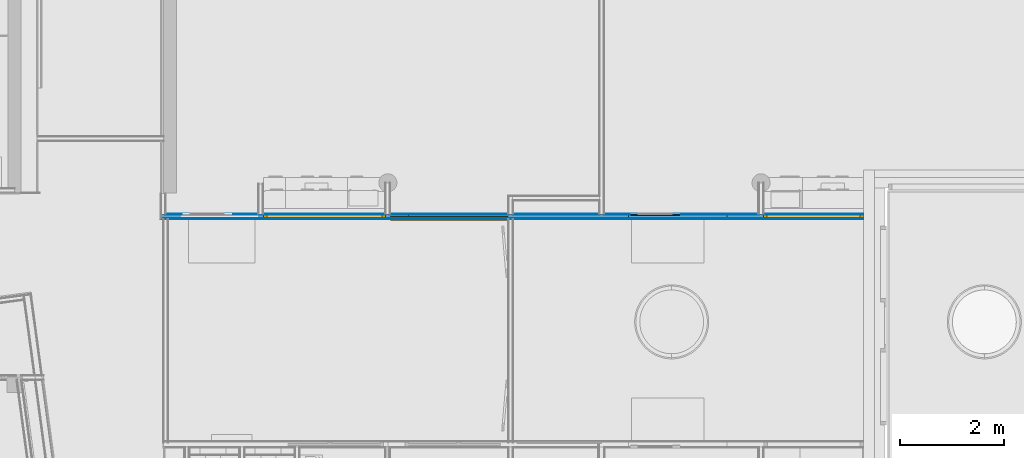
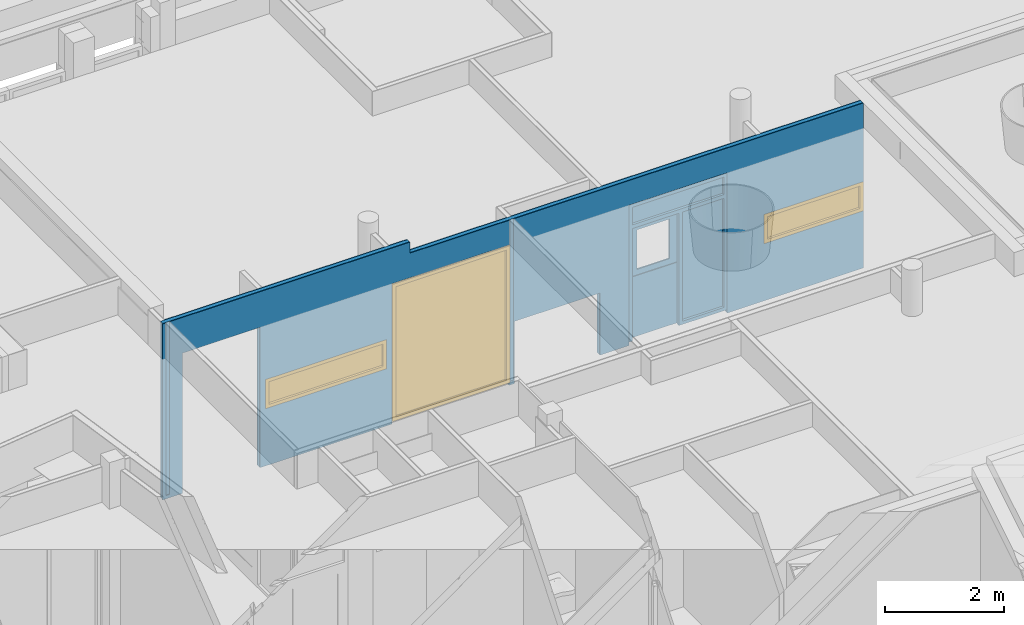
# One storey, part 75 of 167: 5 building element parts, 3 windows, 6 openings, 2 elements without a shape of their own.
"""IFC2X3 building model written with IfcOpenShell, lengths in millimetres."""

from ifc_helpers import new_model, entity, si_unit, converted_unit, derived_unit, money_unit, direction, frame, origin_with_axes, place, context, subcontext, project, spatial, open_shell, faceted_brep, surface_model, material, type_object, element, fill, aggregate, save


model = new_model("IFC2X3")

# Units and contexts
model_context = context("Model", 3, precision=0.01, world=origin_with_axes(), true_north=direction((0.0, 1.0)))
plan_context = context("Plan", 3, precision=0.01, world=origin_with_axes(), true_north=direction((0.0, 1.0)))
body_context = subcontext(model_context, "Body", "Model", "MODEL_VIEW")
ifc_project = project(units=[si_unit("LENGTHUNIT", "METRE", prefix="MILLI"), si_unit("AREAUNIT", "SQUARE_METRE"), si_unit("VOLUMEUNIT", "CUBIC_METRE"), converted_unit("PLANEANGLEUNIT", "DEGREE", entity("IfcPlaneAngleMeasure", 0.0174532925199), si_unit("PLANEANGLEUNIT", "RADIAN"), dimensions=[0, 0, 0, 0, 0, 0, 0]), si_unit("SOLIDANGLEUNIT", "STERADIAN"), money_unit("EUR"), converted_unit("TIMEUNIT", "Year", entity("IfcTimeMeasure", 31556926.0), si_unit("TIMEUNIT", "SECOND"), dimensions=[0, 0, 1, 0, 0, 0, 0]), si_unit("MASSUNIT", "GRAM", prefix="KILO"), si_unit("THERMODYNAMICTEMPERATUREUNIT", "DEGREE_CELSIUS"), si_unit("LUMINOUSINTENSITYUNIT", "LUMEN"), si_unit("ENERGYUNIT", "JOULE", prefix="MEGA"), derived_unit("THERMALCONDUCTANCEUNIT", [(si_unit("POWERUNIT", "WATT"), 1), (si_unit("LENGTHUNIT", "METRE"), -1), (si_unit("THERMODYNAMICTEMPERATUREUNIT", "KELVIN"), -1)]), derived_unit("SPECIFICHEATCAPACITYUNIT", [(si_unit("ENERGYUNIT", "JOULE"), 1), (si_unit("MASSUNIT", "GRAM", prefix="KILO"), -1), (si_unit("THERMODYNAMICTEMPERATUREUNIT", "KELVIN"), -1)]), derived_unit("MASSDENSITYUNIT", [(si_unit("MASSUNIT", "GRAM", prefix="KILO"), 1), (si_unit("VOLUMEUNIT", "CUBIC_METRE"), -1)])], contexts=[model_context, plan_context])

# Site, building, storey
site_placement = place(None, origin_with_axes())
site = spatial("IfcSite", under=ifc_project, at=site_placement, Name="Site", CompositionType="ELEMENT")
building_placement = place(site_placement, origin_with_axes())
building = spatial("IfcBuilding", under=site, at=building_placement, Name="Naam gebouw", CompositionType="ELEMENT")
storey_placement = place(building_placement, origin_with_axes())
storey = spatial("IfcBuildingStorey", under=building, at=storey_placement, Name="Begane grond", CompositionType="ELEMENT", Elevation=0.0)

# Window
window_style_1 = type_object("IfcWindowStyle", Name="R1 24", ConstructionType="NOTDEFINED", OperationType="SINGLE_PANEL", ParameterTakesPrecedence=False, Sizeable=False)
wall_placement = place(storey_placement, frame((38189.0, 41700.0, -100.0), z_axis=(0.0, 0.0, 1.0), x_axis=(-1.0, 0.0, 0.0)))
opening_1_placement = place(wall_placement, frame((1176.5, 0.0, 1200.0), z_axis=(0.0, 0.0, 1.0), x_axis=(1.0, 0.0, 0.0)))
window_1_placement = place(opening_1_placement, frame((-962.5, 0.0, 0.0), z_axis=(0.0, 0.0, 1.0), x_axis=(1.0, 0.0, 0.0)))
window_1 = element("IfcWindow", 1, at=window_1_placement, inside=storey, type_object=window_style_1, Name="31_Raam_Hi-49", ObjectType="WINDOW", OverallHeight=595.0, OverallWidth=1925.0, context=body_context, shape_type="SurfaceModel", body=[
    faceted_brep([(67.0, -64.0, 528.0), (67.0, 50.0, 528.0), (0.0, 50.0, 528.0), (0.0, -64.0, 528.0), (67.0, -64.0, 67.0), (67.0, 50.0, 67.0), (0.0, 50.0, 67.0), (0.0, -64.0, 67.0)], [[[0, 1, 2, 3]], [[4, 5, 1, 0]], [[1, 5, 6, 2]], [[3, 2, 6, 7]], [[0, 3, 7, 4]], [[7, 6, 5, 4]]]),
    faceted_brep([(1858.0, -64.0, 67.0), (1858.0, 50.0, 67.0), (1925.0, 50.0, 67.0), (1925.0, -64.0, 67.0), (1858.0, -64.0, 528.0), (1858.0, 50.0, 528.0), (1925.0, 50.0, 528.0), (1925.0, -64.0, 528.0)], [[[0, 1, 2, 3]], [[4, 5, 1, 0]], [[1, 5, 6, 2]], [[3, 2, 6, 7]], [[0, 3, 7, 4]], [[7, 6, 5, 4]]]),
    faceted_brep([(67.0, -64.0, 67.0), (67.0, 50.0, 67.0), (0.0, 50.0, 67.0), (0.0, -64.0, 67.0), (1858.0, -64.0, 67.0), (1858.0, 50.0, 67.0), (1925.0, 50.0, 67.0), (1925.0, 50.0, 0.0), (0.0, 50.0, 0.0), (0.0, -64.0, 0.0), (1925.0, -64.0, 0.0), (1925.0, -64.0, 67.0)], [[[0, 1, 2, 3]], [[4, 5, 1, 0]], [[1, 5, 6, 7, 8, 2]], [[3, 2, 8, 9]], [[0, 3, 9, 10, 11, 4]], [[11, 6, 5, 4]], [[10, 7, 6, 11]], [[9, 8, 7, 10]]]),
    faceted_brep([(1858.0, -64.0, 528.0), (1858.0, 50.0, 528.0), (1925.0, 50.0, 528.0), (1925.0, -64.0, 528.0), (67.0, -64.0, 528.0), (67.0, 50.0, 528.0), (0.0, 50.0, 528.0), (0.0, 50.0, 595.0), (1925.0, 50.0, 595.0), (1925.0, -64.0, 595.0), (0.0, -64.0, 595.0), (0.0, -64.0, 528.0)], [[[0, 1, 2, 3]], [[4, 5, 1, 0]], [[1, 5, 6, 7, 8, 2]], [[3, 2, 8, 9]], [[0, 3, 9, 10, 11, 4]], [[11, 6, 5, 4]], [[10, 7, 6, 11]], [[9, 8, 7, 10]]]),
    surface_model("IfcShellBasedSurfaceModel", [(67.0, -14.0, 67.0), (1858.0, -14.0, 67.0), (1858.0, -14.0, 528.0), (67.0, -14.0, 528.0)], [open_shell([[[0, 1, 2, 3]]])]),
    surface_model("IfcShellBasedSurfaceModel", [(67.0, 6.00000000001, 67.0), (67.0, 6.00000000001, 528.0), (1858.0, 6.00000000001, 528.0), (1858.0, 6.00000000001, 67.0)], [open_shell([[[0, 1, 2, 3]]])]),
])

opening_2_placement = place(wall_placement, frame((10611.4999999, 0.0, 1200.0), z_axis=(0.0, 0.0, 1.0), x_axis=(1.0, 0.0, 0.0)))
window_2_placement = place(opening_2_placement, frame((-1172.49999987, 0.0, 0.0), z_axis=(0.0, 0.0, 1.0), x_axis=(1.0, 0.0, 0.0)))
window_2 = element("IfcWindow", 2, at=window_2_placement, inside=storey, type_object=window_style_1, Name="31_Raam_Hi-41", ObjectType="WINDOW", OverallHeight=596.073, OverallWidth=2345.0, context=body_context, shape_type="SurfaceModel", body=[
    faceted_brep([(2277.99999975, -64.0, 529.07308756), (2344.99999975, -64.0, 529.07308756), (2344.99999975, 50.0, 529.07308756), (2277.99999975, 50.0, 529.07308756), (2277.99999975, -64.0, 67.0), (2344.99999975, -64.0, 67.0), (2344.99999975, 50.0, 67.0), (2277.99999975, 50.0, 67.0)], [[[0, 1, 2, 3]], [[0, 4, 5, 1]], [[1, 5, 6, 2]], [[3, 2, 6, 7]], [[4, 0, 3, 7]], [[5, 4, 7, 6]]]),
    faceted_brep([(67.0, -64.0, 67.0), (0.0, -64.0, 67.0), (0.0, 50.0, 67.0), (67.0, 50.0, 67.0), (67.0, -64.0, 529.07308756), (0.0, -64.0, 529.07308756), (0.0, 50.0, 529.07308756), (67.0, 50.0, 529.07308756)], [[[0, 1, 2, 3]], [[0, 4, 5, 1]], [[1, 5, 6, 2]], [[3, 2, 6, 7]], [[4, 0, 3, 7]], [[5, 4, 7, 6]]]),
    faceted_brep([(2277.99999975, -64.0, 67.0), (2344.99999975, -64.0, 67.0), (2344.99999975, 50.0, 67.0), (2277.99999975, 50.0, 67.0), (67.0, -64.0, 67.0), (0.0, -64.0, 67.0), (0.0, -64.0, 0.0), (2344.99999975, -64.0, 0.0), (2344.99999975, 50.0, 0.0), (0.0, 50.0, 0.0), (0.0, 50.0, 67.0), (67.0, 50.0, 67.0)], [[[0, 1, 2, 3]], [[0, 4, 5, 6, 7, 1]], [[1, 7, 8, 2]], [[3, 2, 8, 9, 10, 11]], [[4, 0, 3, 11]], [[5, 4, 11, 10]], [[6, 5, 10, 9]], [[7, 6, 9, 8]]]),
    faceted_brep([(67.0, -64.0, 529.07308756), (0.0, -64.0, 529.07308756), (0.0, 50.0, 529.07308756), (67.0, 50.0, 529.07308756), (2277.99999975, -64.0, 529.07308756), (2344.99999975, -64.0, 529.07308756), (2344.99999975, -64.0, 596.07308756), (0.0, -64.0, 596.07308756), (0.0, 50.0, 596.07308756), (2344.99999975, 50.0, 596.07308756), (2344.99999975, 50.0, 529.07308756), (2277.99999975, 50.0, 529.07308756)], [[[0, 1, 2, 3]], [[0, 4, 5, 6, 7, 1]], [[1, 7, 8, 2]], [[3, 2, 8, 9, 10, 11]], [[4, 0, 3, 11]], [[5, 4, 11, 10]], [[6, 5, 10, 9]], [[7, 6, 9, 8]]]),
    surface_model("IfcShellBasedSurfaceModel", [(2277.99999975, -14.0, 67.0), (2277.99999975, -14.0, 529.07308756), (67.0, -14.0, 529.07308756), (67.0, -14.0, 67.0)], [open_shell([[[0, 1, 2, 3]]])]),
    surface_model("IfcShellBasedSurfaceModel", [(2277.99999975, 6.00000000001, 67.0), (67.0, 6.00000000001, 67.0), (67.0, 6.00000000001, 529.07308756), (2277.99999975, 6.00000000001, 529.07308756)], [open_shell([[[0, 1, 2, 3]]])]),
])

window_style_2 = type_object("IfcWindowStyle", Name="R1 24", ConstructionType="NOTDEFINED", OperationType="SINGLE_PANEL", ParameterTakesPrecedence=False, Sizeable=False)
opening_3_placement = place(wall_placement, frame((8203.10155757, 0.0, 100.0), z_axis=(0.0, 0.0, 1.0), x_axis=(1.0, 0.0, 0.0)))
window_3_placement = place(opening_3_placement, frame((-1135.89844243, 0.0, 0.0), z_axis=(0.0, 0.0, 1.0), x_axis=(1.0, 0.0, 0.0)))
window_3 = element("IfcWindow", 3, at=window_3_placement, inside=storey, type_object=window_style_2, Name="31_Raam_Hi-35", ObjectType="WINDOW", OverallHeight=2800.0, OverallWidth=2271.8, context=body_context, shape_type="SurfaceModel", body=[
    faceted_brep([(2204.79688487, -5.0, 2733.0), (2271.79688487, -5.0, 2733.0), (2271.79688487, 75.0, 2733.0), (2204.79688487, 75.0, 2733.0), (2204.79688487, -5.0, 67.0), (2271.79688487, -5.0, 67.0), (2271.79688487, 75.0, 67.0), (2204.79688487, 75.0, 67.0)], [[[0, 1, 2, 3]], [[0, 4, 5, 1]], [[1, 5, 6, 2]], [[3, 2, 6, 7]], [[4, 0, 3, 7]], [[5, 4, 7, 6]]]),
    faceted_brep([(67.0, -5.0, 67.0), (0.0, -5.0, 67.0), (0.0, 75.0, 67.0), (67.0, 75.0, 67.0), (67.0, -5.0, 2733.0), (0.0, -5.0, 2733.0), (0.0, 75.0, 2733.0), (67.0, 75.0, 2733.0)], [[[0, 1, 2, 3]], [[0, 4, 5, 1]], [[1, 5, 6, 2]], [[3, 2, 6, 7]], [[4, 0, 3, 7]], [[5, 4, 7, 6]]]),
    faceted_brep([(2204.79688487, -5.0, 67.0), (2271.79688487, -5.0, 67.0), (2271.79688487, 75.0, 67.0), (2204.79688487, 75.0, 67.0), (67.0, -5.0, 67.0), (0.0, -5.0, 67.0), (0.0, -5.0, 0.0), (2271.79688487, -5.0, 0.0), (2271.79688487, 75.0, 0.0), (0.0, 75.0, 0.0), (0.0, 75.0, 67.0), (67.0, 75.0, 67.0)], [[[0, 1, 2, 3]], [[0, 4, 5, 6, 7, 1]], [[1, 7, 8, 2]], [[3, 2, 8, 9, 10, 11]], [[4, 0, 3, 11]], [[5, 4, 11, 10]], [[6, 5, 10, 9]], [[7, 6, 9, 8]]]),
    faceted_brep([(67.0, -5.0, 2733.0), (0.0, -5.0, 2733.0), (0.0, 75.0, 2733.0), (67.0, 75.0, 2733.0), (2204.79688487, -5.0, 2733.0), (2271.79688487, -5.0, 2733.0), (2271.79688487, -5.0, 2800.0), (0.0, -5.0, 2800.0), (0.0, 75.0, 2800.0), (2271.79688487, 75.0, 2800.0), (2271.79688487, 75.0, 2733.0), (2204.79688487, 75.0, 2733.0)], [[[0, 1, 2, 3]], [[0, 4, 5, 6, 7, 1]], [[1, 7, 8, 2]], [[3, 2, 8, 9, 10, 11]], [[4, 0, 3, 11]], [[5, 4, 11, 10]], [[6, 5, 10, 9]], [[7, 6, 9, 8]]]),
    surface_model("IfcShellBasedSurfaceModel", [(2204.79688487, 11.0, 67.0), (2204.79688487, 11.0, 2733.0), (67.0, 11.0, 2733.0), (67.0, 11.0, 67.0)], [open_shell([[[0, 1, 2, 3]]])]),
    surface_model("IfcShellBasedSurfaceModel", [(2204.79688487, 31.0, 67.0), (67.0, 31.0, 67.0), (67.0, 31.0, 2733.0), (2204.79688487, 31.0, 2733.0)], [open_shell([[[0, 1, 2, 3]]])]),
])

# Wall, opening
wall_type = type_object("IfcWallType", Name="_TenW_22_Metalstud 100 enkel gipsvezelplaat 100", PredefinedType="NOTDEFINED")
wall = element("IfcWall", 4, at=wall_placement, inside=storey, type_object=wall_type, Name="22_Wand_Wand-x")
opening_1 = element("IfcOpeningElement", 5, at=opening_1_placement, cuts=wall, Name="31_Raam_Hi-49", context=body_context, shape_type="Brep", body=[
    faceted_brep([(962.5, -100.0, 595.0), (962.5, -100.0, 0.0), (962.5, 200.0, 0.0), (962.5, 200.0, 595.0), (-962.5, -100.0, 595.0), (-962.5, -100.0, 0.0), (-962.5, 200.0, 0.0), (-962.5, 200.0, 595.0)], [[[0, 1, 2, 3]], [[0, 4, 5, 1]], [[1, 5, 6, 2]], [[3, 2, 6, 7]], [[4, 0, 3, 7]], [[5, 4, 7, 6]]]),
])

fill(opening_1, window_1)

# Opening
opening_2 = element("IfcOpeningElement", 6, at=opening_2_placement, cuts=wall, Name="31_Raam_Hi-41", context=body_context, shape_type="Brep", body=[
    faceted_brep([(-1172.49999987, 200.0, 596.07308756), (-1172.49999987, 200.0, 0.0), (-1172.49999987, -100.0, 0.0), (-1172.49999987, -100.0, 596.07308756), (1172.49999987, 200.0, 596.07308756), (1172.49999987, 200.0, 0.0), (1172.49999987, -100.0, 0.0), (1172.49999987, -100.0, 596.07308756)], [[[0, 1, 2, 3]], [[0, 4, 5, 1]], [[1, 5, 6, 2]], [[3, 2, 6, 7]], [[4, 0, 3, 7]], [[5, 4, 7, 6]]]),
])

fill(opening_2, window_2)

opening_3 = element("IfcOpeningElement", 7, at=opening_3_placement, cuts=wall, Name="31_Raam_Hi-35", context=body_context, shape_type="Brep", body=[
    faceted_brep([(-1135.89844243, 225.0, 2800.0), (-1135.89844243, 225.0, 0.0), (-1135.89844243, -100.0, 0.0), (-1135.89844243, -100.0, 2800.0), (1135.89844243, 225.0, 2800.0), (1135.89844243, 225.0, 0.0), (1135.89844243, -100.0, 0.0), (1135.89844243, -100.0, 2800.0)], [[[0, 1, 2, 3]], [[0, 4, 5, 1]], [[1, 5, 6, 2]], [[3, 2, 6, 7]], [[4, 0, 3, 7]], [[5, 4, 7, 6]]]),
])

fill(opening_3, window_3)

opening_4_placement = place(wall_placement, frame((6140.46082434, 0.0, 30.0), z_axis=(0.0, 0.0, 1.0), x_axis=(1.0, 0.0, 0.0)))
element("IfcOpeningElement", 8, at=opening_4_placement, cuts=wall, Name="31_Raam_Merk-x", context=body_context, shape_type="Brep", body=[
    faceted_brep([(-826.742290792, -100.0, 0.0), (-826.742290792, -100.0, 1270.0), (-826.742290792, 200.0, 1270.0), (-826.742290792, 200.0, 0.0), (826.742290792, -100.0, 0.0), (826.742290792, -100.0, 1270.0), (826.742290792, 200.0, 1270.0), (826.742290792, 200.0, 0.0)], [[[0, 1, 2, 3]], [[0, 4, 5, 1]], [[1, 5, 6, 2]], [[3, 2, 6, 7]], [[4, 0, 3, 7]], [[5, 4, 7, 6]]]),
])

opening_5_placement = place(wall_placement, frame((3798.99993764, 0.0, 100.0), z_axis=(0.0, 0.0, 1.0), x_axis=(1.0, 0.0, 0.0)))
opening_5 = element("IfcOpeningElement", 9, at=opening_5_placement, cuts=wall, Name="32_Deur_Hi-43s", context=body_context, shape_type="Brep", body=[
    faceted_brep([(950.0, 200.0, 0.0), (950.0, 200.0, 2800.0), (950.0, -100.0, 2800.0), (950.0, -100.0, 0.0), (-950.0, 200.0, 0.0), (-950.0, 200.0, 2800.0), (-950.0, -100.0, 2800.0), (-950.0, -100.0, 0.0)], [[[0, 1, 2, 3]], [[0, 4, 5, 1]], [[1, 5, 6, 2]], [[3, 2, 6, 7]], [[4, 0, 3, 7]], [[5, 4, 7, 6]]]),
])

opening_6_placement = place(wall_placement, frame((12639.0, 0.0, 100.0), z_axis=(0.0, 0.0, 1.0), x_axis=(1.0, 0.0, 0.0)))
element("IfcOpeningElement", 10, at=opening_6_placement, cuts=wall, Name="32_Deur_Hi-16", context=body_context, shape_type="Brep", body=[
    faceted_brep([(750.0, 200.0, 0.0), (750.0, 200.0, 2800.0), (750.0, -100.0, 2800.0), (750.0, -100.0, 0.0), (-750.0, 200.0, 0.0), (-750.0, 200.0, 2800.0), (-750.0, -100.0, 2800.0), (-750.0, -100.0, 0.0)], [[[0, 1, 2, 3]], [[0, 4, 5, 1]], [[1, 5, 6, 2]], [[3, 2, 6, 7]], [[4, 0, 3, 7]], [[5, 4, 7, 6]]]),
])

# Building element part
ifc_material_1 = material(Name="Gipsplaat watervast")
building_element_part_1_placement = place(wall_placement, origin_with_axes())
building_element_part_1 = element("IfcBuildingElementPart", 11, at=building_element_part_1_placement, material=ifc_material_1, Name="Gipsplaat watervast", context=body_context, shape_type="Brep", body=[
    faceted_brep([(13389.0, 37.5, 2900.0), (13389.0, 37.5, 100.0), (13389.0, 37.5, 30.0), (13773.9999908, 37.5, 30.0), (13773.9999908, 37.5, 3629.99999752), (13711.4999908, 37.5, 3630.0), (13711.4999908, 37.5, 100.0), (13636.4999908, 37.5, 100.0), (13636.4999908, 37.5, 3630.0), (8989.0, 37.5, 3630.0), (8989.0, 37.5, 3405.0), (7054.70311513, 37.5, 3405.0), (7054.70311513, 37.5, 100.0), (6979.70311513, 37.5, 100.0), (6979.70311513, 37.5, 3405.0), (214.0, 37.5, 3405.0), (214.0, 37.5, 1795.0), (2139.0, 37.5, 1795.0), (2139.0, 37.5, 1200.0), (214.0, 37.5, 1200.0), (214.0, 37.5, 30.0), (2848.99993764, 37.5, 30.0), (2848.99993764, 37.5, 100.0), (2848.99993764, 37.5, 2900.0), (4748.99993764, 37.5, 2900.0), (4748.99993764, 37.5, 100.0), (4748.99993764, 37.5, 30.0), (5313.71853355, 37.5, 30.0), (5313.71853355, 37.5, 100.0), (5313.71853355, 37.5, 1300.0), (6967.20311513, 37.5, 1300.0), (6967.20311513, 37.5, 100.0), (6967.20311513, 37.5, 30.0), (7067.20311513, 37.5, 30.0), (7067.20311513, 37.5, 100.0), (7067.20311513, 37.5, 2900.0), (9339.0, 37.5, 2900.0), (9339.0, 37.5, 100.0), (9339.0, 37.5, 30.0), (11889.0, 37.5, 30.0), (11889.0, 37.5, 100.0), (11889.0, 37.5, 2900.0), (11783.9999997, 37.5, 1200.0), (9439.0, 37.5, 1200.0), (9439.0, 37.5, 1796.07308756), (11783.9999997, 37.5, 1796.07308756), (13389.0, 50.0, 2900.0), (13389.0, 50.0, 100.0), (13389.0, 50.0, 30.0), (13773.9999908, 50.0, 30.0), (13773.9999908, 50.0, 3629.99999752), (13711.4999908, 50.0, 3630.0), (13711.4999908, 50.0, 100.0), (13636.4999908, 50.0, 100.0), (13636.4999908, 50.0, 3630.0), (8989.0, 50.0, 3630.0), (8989.0, 50.0, 3405.0), (7054.70311513, 50.0, 3405.0), (7054.70311513, 50.0, 100.0), (6979.70311513, 50.0, 100.0), (6979.70311513, 50.0, 3405.0), (214.0, 50.0, 3405.0), (214.0, 50.0, 1795.0), (2139.0, 50.0, 1795.0), (2139.0, 50.0, 1200.0), (214.0, 50.0, 1200.0), (214.0, 50.0, 30.0), (2848.99993764, 50.0, 30.0), (2848.99993764, 50.0, 100.0), (2848.99993764, 50.0, 2900.0), (4748.99993764, 50.0, 2900.0), (4748.99993764, 50.0, 100.0), (4748.99993764, 50.0, 30.0), (5313.71853355, 50.0, 30.0), (5313.71853355, 50.0, 100.0), (5313.71853355, 50.0, 1300.0), (6967.20311513, 50.0, 1300.0), (6967.20311513, 50.0, 100.0), (6967.20311513, 50.0, 30.0), (7067.20311513, 50.0, 30.0), (7067.20311513, 50.0, 100.0), (7067.20311513, 50.0, 2900.0), (9339.0, 50.0, 2900.0), (9339.0, 50.0, 100.0), (9339.0, 50.0, 30.0), (11889.0, 50.0, 30.0), (11889.0, 50.0, 100.0), (11889.0, 50.0, 2900.0), (11783.9999997, 50.0, 1200.0), (9439.0, 50.0, 1200.0), (9439.0, 50.0, 1796.07308756), (11783.9999997, 50.0, 1796.07308756)], [[[0, 1, 2, 3, 4, 5, 6, 7, 8, 9, 10, 11, 12, 13, 14, 15, 16, 17, 18, 19, 20, 21, 22, 23, 24, 25, 26, 27, 28, 29, 30, 31, 32, 33, 34, 35, 36, 37, 38, 39, 40, 41], [42, 43, 44, 45]], [[1, 0, 46, 47]], [[1, 47, 48, 2]], [[49, 3, 2, 48]], [[50, 4, 3, 49]], [[5, 4, 50, 51]], [[5, 51, 52, 6]], [[6, 52, 53, 7]], [[8, 7, 53, 54]], [[8, 54, 55, 9]], [[9, 55, 56, 10]], [[10, 56, 57, 11]], [[58, 12, 11, 57]], [[12, 58, 59, 13]], [[13, 59, 60, 14]], [[14, 60, 61, 15]], [[16, 15, 61, 62]], [[16, 62, 63, 17]], [[17, 63, 64, 18]], [[19, 18, 64, 65]], [[65, 66, 20, 19]], [[20, 66, 67, 21]], [[22, 21, 67, 68]], [[22, 68, 69, 23]], [[23, 69, 70, 24]], [[24, 70, 71, 25]], [[71, 72, 26, 25]], [[26, 72, 73, 27]], [[27, 73, 74, 28]], [[74, 75, 29, 28]], [[75, 76, 30, 29]], [[76, 77, 31, 30]], [[78, 32, 31, 77]], [[32, 78, 79, 33]], [[79, 80, 34, 33]], [[81, 35, 34, 80]], [[82, 36, 35, 81]], [[83, 37, 36, 82]], [[38, 37, 83, 84]], [[38, 84, 85, 39]], [[86, 40, 39, 85]], [[41, 40, 86, 87]], [[0, 41, 87, 46]], [[43, 42, 88, 89]], [[44, 43, 89, 90]], [[45, 44, 90, 91]], [[42, 45, 91, 88]], [[87, 86, 85, 84, 83, 82, 81, 80, 79, 78, 77, 76, 75, 74, 73, 72, 71, 70, 69, 68, 67, 66, 65, 64, 63, 62, 61, 60, 59, 58, 57, 56, 55, 54, 53, 52, 51, 50, 49, 48, 47, 46], [88, 91, 90, 89]]]),
])

ifc_material_2 = material(Name="Isolatie - Steenwol zacht")
building_element_part_2_placement = place(wall_placement, origin_with_axes())
building_element_part_2 = element("IfcBuildingElementPart", 12, at=building_element_part_2_placement, material=ifc_material_2, Name="Isolatie - Steenwol zacht", context=body_context, shape_type="Brep", body=[
    faceted_brep([(13389.0, -37.5, 2900.0), (13389.0, -37.5, 100.0), (13389.0, -37.5, 30.0), (13761.4999908, -37.5, 30.0), (13761.4999908, -37.5, 3629.99999752), (8989.0, -37.5, 3629.99999752), (8989.0, -37.5, 3405.0), (214.0, -37.5, 3405.0), (214.0, -37.5, 1795.0), (2139.0, -37.5, 1795.0), (2139.0, -37.5, 1200.0), (214.0, -37.5, 1200.0), (214.0, -37.5, 30.0), (2848.99993764, -37.5, 30.0), (2848.99993764, -37.5, 100.0), (2848.99993764, -37.5, 2900.0), (4748.99993764, -37.5, 2900.0), (4748.99993764, -37.5, 100.0), (4748.99993764, -37.5, 30.0), (5313.71853355, -37.5, 30.0), (5313.71853355, -37.5, 100.0), (5313.71853355, -37.5, 1300.0), (6967.20311513, -37.5, 1300.0), (6967.20311513, -37.5, 100.0), (6967.20311513, -37.5, 30.0), (7067.20311513, -37.5, 30.0), (7067.20311513, -37.5, 100.0), (7067.20311513, -37.5, 2900.0), (9339.0, -37.5, 2900.0), (9339.0, -37.5, 100.0), (9339.0, -37.5, 30.0), (11889.0, -37.5, 30.0), (11889.0, -37.5, 100.0), (11889.0, -37.5, 2900.0), (11783.9999997, -37.5, 1200.0), (9439.0, -37.5, 1200.0), (9439.0, -37.5, 1796.07308756), (11783.9999997, -37.5, 1796.07308756), (13389.0, 37.5, 2900.0), (13389.0, 37.5, 100.0), (13389.0, 37.5, 30.0), (13761.4999908, 37.5, 30.0), (13761.4999908, 37.5, 3629.99999752), (8989.0, 37.5, 3629.99999752), (8989.0, 37.5, 3405.0), (214.0, 37.5, 3405.0), (214.0, 37.5, 1795.0), (2139.0, 37.5, 1795.0), (2139.0, 37.5, 1200.0), (214.0, 37.5, 1200.0), (214.0, 37.5, 30.0), (2848.99993764, 37.5, 30.0), (2848.99993764, 37.5, 100.0), (2848.99993764, 37.5, 2900.0), (4748.99993764, 37.5, 2900.0), (4748.99993764, 37.5, 100.0), (4748.99993764, 37.5, 30.0), (5313.71853355, 37.5, 30.0), (5313.71853355, 37.5, 100.0), (5313.71853355, 37.5, 1300.0), (6967.20311513, 37.5, 1300.0), (6967.20311513, 37.5, 100.0), (6967.20311513, 37.5, 30.0), (7067.20311513, 37.5, 30.0), (7067.20311513, 37.5, 100.0), (7067.20311513, 37.5, 2900.0), (9339.0, 37.5, 2900.0), (9339.0, 37.5, 100.0), (9339.0, 37.5, 30.0), (11889.0, 37.5, 30.0), (11889.0, 37.5, 100.0), (11889.0, 37.5, 2900.0), (11783.9999997, 37.5, 1200.0), (9439.0, 37.5, 1200.0), (9439.0, 37.5, 1796.07308756), (11783.9999997, 37.5, 1796.07308756)], [[[0, 1, 2, 3, 4, 5, 6, 7, 8, 9, 10, 11, 12, 13, 14, 15, 16, 17, 18, 19, 20, 21, 22, 23, 24, 25, 26, 27, 28, 29, 30, 31, 32, 33], [34, 35, 36, 37]], [[1, 0, 38, 39]], [[1, 39, 40, 2]], [[41, 3, 2, 40]], [[42, 4, 3, 41]], [[4, 42, 43, 5]], [[5, 43, 44, 6]], [[6, 44, 45, 7]], [[8, 7, 45, 46]], [[8, 46, 47, 9]], [[9, 47, 48, 10]], [[11, 10, 48, 49]], [[49, 50, 12, 11]], [[12, 50, 51, 13]], [[14, 13, 51, 52]], [[14, 52, 53, 15]], [[15, 53, 54, 16]], [[16, 54, 55, 17]], [[55, 56, 18, 17]], [[18, 56, 57, 19]], [[19, 57, 58, 20]], [[58, 59, 21, 20]], [[59, 60, 22, 21]], [[60, 61, 23, 22]], [[62, 24, 23, 61]], [[24, 62, 63, 25]], [[63, 64, 26, 25]], [[65, 27, 26, 64]], [[66, 28, 27, 65]], [[67, 29, 28, 66]], [[30, 29, 67, 68]], [[30, 68, 69, 31]], [[70, 32, 31, 69]], [[33, 32, 70, 71]], [[0, 33, 71, 38]], [[35, 34, 72, 73]], [[36, 35, 73, 74]], [[37, 36, 74, 75]], [[34, 37, 75, 72]], [[71, 70, 69, 68, 67, 66, 65, 64, 63, 62, 61, 60, 59, 58, 57, 56, 55, 54, 53, 52, 51, 50, 49, 48, 47, 46, 45, 44, 43, 42, 41, 40, 39, 38], [72, 75, 74, 73]]]),
])

building_element_part_3_placement = place(wall_placement, origin_with_axes())
building_element_part_3 = element("IfcBuildingElementPart", 13, at=building_element_part_3_placement, material=ifc_material_1, Name="Gipsplaat watervast", context=body_context, shape_type="Brep", body=[
    faceted_brep([(9339.0, -50.0, 2900.0), (9339.0, -50.0, 100.0), (9339.0, -50.0, 30.0), (9351.5, -50.0, 30.0), (9351.5, -50.0, 3629.99999752), (8989.0, -50.0, 3629.9999979), (8989.0, -50.0, 3405.0), (7054.70311513, -50.0, 3405.0), (7054.70311513, -50.0, 30.0), (7067.20311513, -50.0, 30.0), (7067.20311513, -50.0, 100.0), (7067.20311513, -50.0, 2900.0), (9339.0, -37.5, 2900.0), (9339.0, -37.5, 100.0), (9339.0, -37.5, 30.0), (9351.5, -37.5, 30.0), (9351.5, -37.5, 3629.99999752), (8989.0, -37.5, 3629.99999791), (8989.0, -37.5, 3405.0), (7054.70311513, -37.5, 3405.0), (7054.70311513, -37.5, 30.0), (7067.20311513, -37.5, 30.0), (7067.20311513, -37.5, 100.0), (7067.20311513, -37.5, 2900.0)], [[[0, 1, 2, 3, 4, 5, 6, 7, 8, 9, 10, 11]], [[1, 0, 12, 13]], [[1, 13, 14, 2]], [[14, 15, 3, 2]], [[15, 16, 4, 3]], [[5, 4, 16, 17]], [[6, 5, 17, 18]], [[7, 6, 18, 19]], [[19, 20, 8, 7]], [[9, 8, 20, 21]], [[22, 10, 9, 21]], [[11, 10, 22, 23]], [[0, 11, 23, 12]], [[23, 22, 21, 20, 19, 18, 17, 16, 15, 14, 13, 12]]]),
    faceted_brep([(6967.20311513, -50.0, 1300.0), (6967.20311513, -50.0, 100.0), (6967.20311513, -50.0, 30.0), (6979.70311513, -50.0, 30.0), (6979.70311513, -50.0, 3405.0), (5301.21853355, -50.0, 3405.0), (5301.21853355, -50.0, 30.0), (5313.71853355, -50.0, 30.0), (5313.71853355, -50.0, 100.0), (5313.71853355, -50.0, 1300.0), (6967.20311513, -37.5, 1300.0), (6967.20311513, -37.5, 100.0), (6967.20311513, -37.5, 30.0), (6979.70311513, -37.5, 30.0), (6979.70311513, -37.5, 3405.0), (5301.21853355, -37.5, 3405.0), (5301.21853355, -37.5, 30.0), (5313.71853355, -37.5, 30.0), (5313.71853355, -37.5, 100.0), (5313.71853355, -37.5, 1300.0)], [[[0, 1, 2, 3, 4, 5, 6, 7, 8, 9]], [[1, 0, 10, 11]], [[1, 11, 12, 2]], [[12, 13, 3, 2]], [[4, 3, 13, 14]], [[5, 4, 14, 15]], [[15, 16, 6, 5]], [[7, 6, 16, 17]], [[18, 8, 7, 17]], [[9, 8, 18, 19]], [[0, 9, 19, 10]], [[19, 18, 17, 16, 15, 14, 13, 12, 11, 10]]]),
    faceted_brep([(13389.0, -50.0, 2900.0), (13389.0, -50.0, 100.0), (13389.0, -50.0, 30.0), (13686.4999908, -50.0, 30.0), (13686.4999908, -50.0, 3629.99999752), (9426.5, -50.0, 3629.99999752), (9426.5, -50.0, 30.0), (11889.0, -50.0, 30.0), (11889.0, -50.0, 100.0), (11889.0, -50.0, 2900.0), (9439.0, -50.0, 1200.0), (9439.0, -50.0, 1796.07308756), (11783.9999997, -50.0, 1796.07308756), (11783.9999997, -50.0, 1200.0), (13389.0, -37.5, 2900.0), (13389.0, -37.5, 100.0), (13389.0, -37.5, 30.0), (13686.4999908, -37.5, 30.0), (13686.4999908, -37.5, 3629.99999752), (9426.5, -37.5, 3629.99999752), (9426.5, -37.5, 30.0), (11889.0, -37.5, 30.0), (11889.0, -37.5, 100.0), (11889.0, -37.5, 2900.0), (9439.0, -37.5, 1200.0), (9439.0, -37.5, 1796.07308756), (11783.9999997, -37.5, 1796.07308756), (11783.9999997, -37.5, 1200.0)], [[[0, 1, 2, 3, 4, 5, 6, 7, 8, 9], [10, 11, 12, 13]], [[1, 0, 14, 15]], [[1, 15, 16, 2]], [[17, 3, 2, 16]], [[18, 4, 3, 17]], [[19, 5, 4, 18]], [[5, 19, 20, 6]], [[6, 20, 21, 7]], [[22, 8, 7, 21]], [[9, 8, 22, 23]], [[0, 9, 23, 14]], [[10, 24, 25, 11]], [[11, 25, 26, 12]], [[12, 26, 27, 13]], [[13, 27, 24, 10]], [[23, 22, 21, 20, 19, 18, 17, 16, 15, 14], [26, 25, 24, 27]]]),
    faceted_brep([(214.0, -37.5, 1795.0), (214.0, -50.0, 1795.0), (214.0, -50.0, 3405.0), (214.0, -37.5, 3405.0), (2139.0, -50.0, 1795.0), (2139.0, -37.5, 1795.0), (2139.0, -50.0, 1200.0), (214.0, -50.0, 1200.0), (214.0, -50.0, 30.0), (2151.5, -50.0, 30.0), (2151.5, -50.0, 3405.0), (2151.5, -37.5, 3405.0), (2151.5, -37.5, 30.0), (214.0, -37.5, 30.0), (214.0, -37.5, 1200.0), (2139.0, -37.5, 1200.0)], [[[0, 1, 2, 3]], [[4, 1, 0, 5]], [[6, 7, 8, 9, 10, 2, 1, 4]], [[2, 10, 11, 3]], [[5, 0, 3, 11, 12, 13, 14, 15]], [[6, 4, 5, 15]], [[14, 7, 6, 15]], [[7, 14, 13, 8]], [[8, 13, 12, 9]], [[10, 9, 12, 11]]]),
    faceted_brep([(4748.99993764, -50.0, 2900.0), (4748.99993764, -50.0, 100.0), (4748.99993764, -50.0, 30.0), (5226.21853355, -50.0, 30.0), (5226.21853355, -50.0, 3405.0), (2226.5, -50.0, 3405.0), (2226.5, -50.0, 30.0), (2848.99993764, -50.0, 30.0), (2848.99993764, -50.0, 100.0), (2848.99993764, -50.0, 2900.0), (4748.99993764, -37.5, 2900.0), (4748.99993764, -37.5, 100.0), (4748.99993764, -37.5, 30.0), (5226.21853355, -37.5, 30.0), (5226.21853355, -37.5, 3405.0), (2226.5, -37.5, 3405.0), (2226.5, -37.5, 30.0), (2848.99993764, -37.5, 30.0), (2848.99993764, -37.5, 100.0), (2848.99993764, -37.5, 2900.0)], [[[0, 1, 2, 3, 4, 5, 6, 7, 8, 9]], [[1, 0, 10, 11]], [[1, 11, 12, 2]], [[12, 13, 3, 2]], [[4, 3, 13, 14]], [[5, 4, 14, 15]], [[15, 16, 6, 5]], [[7, 6, 16, 17]], [[18, 8, 7, 17]], [[9, 8, 18, 19]], [[0, 9, 19, 10]], [[19, 18, 17, 16, 15, 14, 13, 12, 11, 10]]]),
])

aggregate(wall, [building_element_part_1, building_element_part_2, building_element_part_3])

# Door
door_style = type_object("IfcDoorStyle", Name="D1 bl zl1-b 24", ConstructionType="NOTDEFINED", OperationType="SINGLE_SWING_LEFT", ParameterTakesPrecedence=False, Sizeable=False)
door_placement = place(opening_5_placement, frame((950.0, 0.0, 0.0), z_axis=(0.0, 0.0, 1.0), x_axis=(-1.0, 0.0, 0.0)))
door = element("IfcDoor", 14, at=door_placement, inside=storey, type_object=door_style, Name="32_Deur_Hi-43s", ObjectType="DOOR", OverallHeight=2800.0, OverallWidth=1900.0)

fill(opening_5, door)

# Building element part
building_element_part_4_placement = place(door_placement, origin_with_axes())
building_element_part_4 = element("IfcBuildingElementPart", 15, at=building_element_part_4_placement, context=body_context, shape_type="SurfaceModel", body=[
    faceted_brep([(1900.0, 64.0, 0.0), (1900.0, -50.0, 0.0), (1833.0, -50.0, 0.0), (1833.0, 64.0, 0.0), (1900.0, 64.0, 2733.0), (1900.0, -50.0, 2733.0), (1833.0, -50.0, 2733.0), (1833.0, -50.0, 2375.0), (1833.0, -50.0, 2300.0), (1833.0, -50.0, 67.0), (1833.0, 64.0, 67.0), (1833.0, 64.0, 2300.0), (1833.0, 64.0, 2375.0), (1833.0, 64.0, 2733.0)], [[[0, 1, 2, 3]], [[4, 5, 1, 0]], [[1, 5, 6, 7, 8, 9, 2]], [[3, 2, 9, 10]], [[0, 3, 10, 11, 12, 13, 4]], [[13, 6, 5, 4]], [[12, 7, 6, 13]], [[11, 8, 7, 12]], [[10, 9, 8, 11]]]),
    faceted_brep([(967.0, 24.0, 0.0), (967.0, -50.0, 0.0), (967.0, -50.0, 2300.0), (967.0, 24.0, 2300.0), (992.0, 24.0, 0.0), (992.0, 64.0, 0.0), (1034.0, 64.0, 0.0), (1034.0, -50.0, 0.0), (1034.0, -50.0, 67.0), (1034.0, -50.0, 2300.0), (992.0, 24.0, 2300.0), (1034.0, 64.0, 2300.0), (992.0, 64.0, 2300.0), (1034.0, 64.0, 67.0)], [[[0, 1, 2, 3]], [[4, 5, 6, 7, 1, 0]], [[7, 8, 9, 2, 1]], [[10, 3, 2, 9, 11, 12]], [[10, 4, 0, 3]], [[12, 5, 4, 10]], [[12, 11, 13, 6, 5]], [[6, 13, 8, 7]], [[13, 11, 9, 8]]]),
    faceted_brep([(1833.0, 64.0, 67.0), (1833.0, -50.0, 67.0), (1833.0, -50.0, 0.0), (1833.0, 64.0, 0.0), (1034.0, 64.0, 67.0), (1034.0, -50.0, 67.0), (1034.0, -50.0, 0.0), (1034.0, 64.0, 0.0)], [[[0, 1, 2, 3]], [[4, 5, 1, 0]], [[1, 5, 6, 2]], [[3, 2, 6, 7]], [[0, 3, 7, 4]], [[7, 6, 5, 4]]]),
    faceted_brep([(42.0, 64.0, 2325.0), (42.0, 64.0, 0.0), (0.0, 64.0, 0.0), (0.0, 64.0, 2733.0), (67.0, 64.0, 2733.0), (67.0, 64.0, 2375.0), (67.0, 64.0, 2325.0), (42.0, 24.0, 2325.0), (42.0, 24.0, 0.0), (67.0, 24.0, 0.0), (67.0, -50.0, 0.0), (0.0, -50.0, 0.0), (0.0, -50.0, 2733.0), (67.0, -50.0, 2733.0), (67.0, -50.0, 2375.0), (67.0, 24.0, 2325.0), (67.0, -50.0, 2300.0)], [[[0, 1, 2, 3, 4, 5, 6]], [[0, 7, 8, 1]], [[8, 9, 10, 11, 2, 1]], [[3, 2, 11, 12]], [[4, 3, 12, 13]], [[5, 4, 13, 14]], [[15, 6, 5, 14, 16, 10, 9]], [[6, 15, 7, 0]], [[8, 7, 15, 9]], [[14, 13, 12, 11, 10, 16]]]),
    faceted_brep([(1900.0, 64.0, 2800.0), (1900.0, -50.0, 2800.0), (1900.0, -50.0, 2733.0), (1900.0, 64.0, 2733.0), (0.0, 64.0, 2800.0), (0.0, -50.0, 2800.0), (0.0, -50.0, 2733.0), (67.0, -50.0, 2733.0), (1833.0, -50.0, 2733.0), (1833.0, 64.0, 2733.0), (67.0, 64.0, 2733.0), (0.0, 64.0, 2733.0)], [[[0, 1, 2, 3]], [[4, 5, 1, 0]], [[1, 5, 6, 7, 8, 2]], [[3, 2, 8, 9]], [[0, 3, 9, 10, 11, 4]], [[11, 6, 5, 4]], [[10, 7, 6, 11]], [[9, 8, 7, 10]]]),
    faceted_brep([(67.0, 24.0, 2325.0), (67.0, 24.0, 2300.0), (67.0, -50.0, 2300.0), (67.0, -50.0, 2375.0), (67.0, 64.0, 2375.0), (67.0, 64.0, 2325.0), (992.0, 24.0, 2325.0), (992.0, 24.0, 2300.0), (967.0, 24.0, 2300.0), (967.0, -50.0, 2300.0), (1034.0, -50.0, 2300.0), (1833.0, -50.0, 2300.0), (1833.0, -50.0, 2375.0), (1833.0, 64.0, 2375.0), (992.0, 64.0, 2325.0), (1833.0, 64.0, 2300.0), (1034.0, 64.0, 2300.0), (992.0, 64.0, 2300.0)], [[[0, 1, 2, 3, 4, 5]], [[0, 6, 7, 8, 1]], [[8, 9, 2, 1]], [[9, 10, 11, 12, 3, 2]], [[13, 4, 3, 12]], [[14, 5, 4, 13, 15, 16, 17]], [[5, 14, 6, 0]], [[17, 7, 6, 14]], [[7, 17, 16, 10, 9, 8]], [[16, 15, 11, 10]], [[15, 13, 12, 11]]]),
    surface_model("IfcShellBasedSurfaceModel", [(1833.0, 10.0, 2375.0), (67.0, 10.0, 2375.0), (67.0, 10.0, 2733.0), (1833.0, 10.0, 2733.0)], [open_shell([[[0, 1, 2, 3]]])]),
    surface_model("IfcShellBasedSurfaceModel", [(1833.0, -2.0, 2375.0), (1833.0, -2.0, 2733.0), (67.0, -2.0, 2733.0), (67.0, -2.0, 2375.0)], [open_shell([[[0, 1, 2, 3]]])]),
    surface_model("IfcShellBasedSurfaceModel", [(1833.0, 10.0, 67.0), (1034.0, 10.0, 67.0), (1034.0, 10.0, 2300.0), (1833.0, 10.0, 2300.0)], [open_shell([[[0, 1, 2, 3]]])]),
    surface_model("IfcShellBasedSurfaceModel", [(1833.0, -2.0, 67.0), (1833.0, -2.0, 2300.0), (1034.0, -2.0, 2300.0), (1034.0, -2.0, 67.0)], [open_shell([[[0, 1, 2, 3]]])]),
])

ifc_material_3 = material(Name="_TenW_24_Hout - Multiplex")
building_element_part_5_placement = place(door_placement, origin_with_axes())
building_element_part_5 = element("IfcBuildingElementPart", 16, at=building_element_part_5_placement, material=ifc_material_3, Name="_TenW_24_Hout - Multiplex", context=body_context, shape_type="Brep", body=[
    faceted_brep([(42.0, 64.0, 1218.09782609), (992.0, 64.0, 1218.09782609), (992.0, 37.3333333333, 1218.09782609), (42.0, 37.3333333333, 1218.09782609), (42.0, 64.0, 2325.0), (992.0, 64.0, 2325.0), (200.333333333, 64.0, 1364.67391304), (833.666666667, 64.0, 1364.67391304), (833.666666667, 64.0, 2173.36956522), (200.333333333, 64.0, 2173.36956522), (992.0, 37.3333333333, 2325.0), (42.0, 37.3333333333, 2325.0), (200.333333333, 37.3333333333, 1364.67391304), (200.333333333, 37.3333333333, 2173.36956522), (833.666666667, 37.3333333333, 2173.36956522), (833.666666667, 37.3333333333, 1364.67391304)], [[[0, 1, 2, 3]], [[0, 4, 5, 1], [6, 7, 8, 9]], [[1, 5, 10, 2]], [[3, 2, 10, 11], [12, 13, 14, 15]], [[4, 0, 3, 11]], [[5, 4, 11, 10]], [[7, 6, 12, 15]], [[8, 7, 15, 14]], [[9, 8, 14, 13]], [[6, 9, 13, 12]]]),
    faceted_brep([(42.0, 64.0, 0.0), (992.0, 64.0, 0.0), (992.0, 37.3333333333, 0.0), (42.0, 37.3333333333, 0.0), (42.0, 64.0, 1213.04347826), (992.0, 64.0, 1213.04347826), (992.0, 37.3333333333, 1213.04347826), (42.0, 37.3333333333, 1213.04347826)], [[[0, 1, 2, 3]], [[0, 4, 5, 1]], [[1, 5, 6, 2]], [[3, 2, 6, 7]], [[4, 0, 3, 7]], [[5, 4, 7, 6]]]),
    faceted_brep([(42.0, 37.3333333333, 1200.20126027), (992.0, 37.3333333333, 1200.20126027), (992.0, 24.0, 1200.20126027), (42.0, 24.0, 1200.20126027), (42.0, 37.3333333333, 1250.74473853), (992.0, 37.3333333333, 1250.74473853), (992.0, 24.0, 1250.74473853), (42.0, 24.0, 1250.74473853)], [[[0, 1, 2, 3]], [[0, 4, 5, 1]], [[1, 5, 6, 2]], [[3, 2, 6, 7]], [[4, 0, 3, 7]], [[5, 4, 7, 6]]]),
])

aggregate(door, [building_element_part_4, building_element_part_5])

save(model, "model.ifc")
